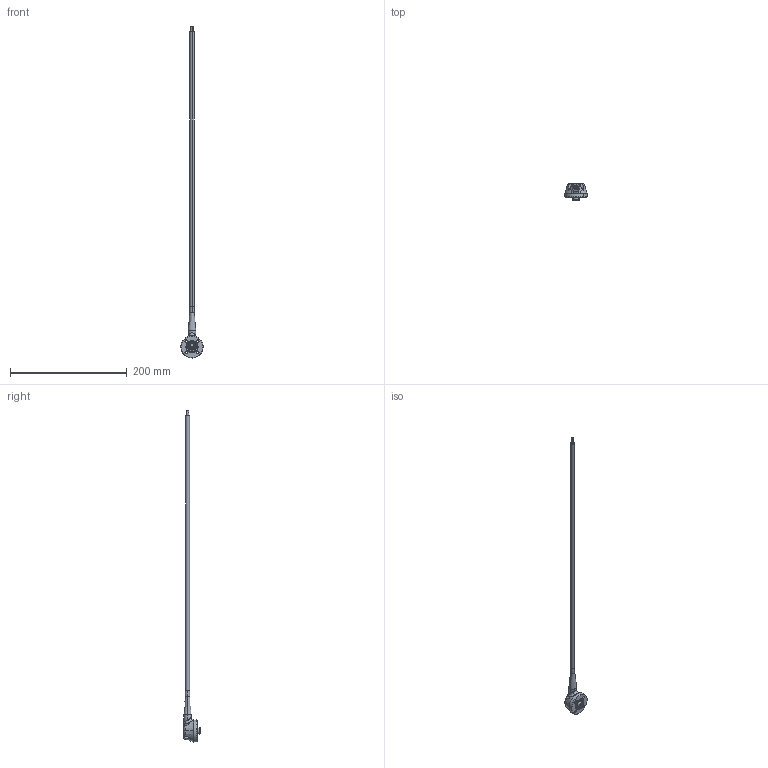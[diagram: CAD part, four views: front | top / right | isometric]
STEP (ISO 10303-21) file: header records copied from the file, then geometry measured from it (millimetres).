
FILE_DESCRIPTION (( 'STEP AP214' ), '1' );
FILE_NAME ('RA SK Sonar Cable.STEP', '2010-02-26T12:24:05', ( 'ST' ), ( 'System Technologies' ), 'SwSTEP 2.0', 'SolidWorks 2008', '' );
FILE_SCHEMA (( 'AUTOMOTIVE_DESIGN' ));
Length unit declared in the file: millimetre
Products named in the file (5): angle connector; RA SK Sonar Cable; 03191 Connector Base; 02015 ST Sonar Cable; right angle connector
Assembly tree (4 placements, depth 3):
  RA SK Sonar Cable
    02015 ST Sonar Cable
    right angle connector
      03191 Connector Base
      angle connector
Bounding box: 38 x 28.09 x 568.13 mm (x, y, z)
Volume: 42035.3 mm3; surface area: 48616.1 mm2
Topology: 11 solids, 11 shells, 181 faces, 389 edges, 239 vertices
Faces by surface type: cylinder 96, plane 38, cone 25, torus 17, bspline 5
Entity records: 6613 total; most frequent: CARTESIAN_POINT 1647, DIRECTION 968, ORIENTED_EDGE 774, AXIS2_PLACEMENT_3D 424, EDGE_CURVE 387, CIRCLE 240, VERTEX_POINT 239, EDGE_LOOP 224
